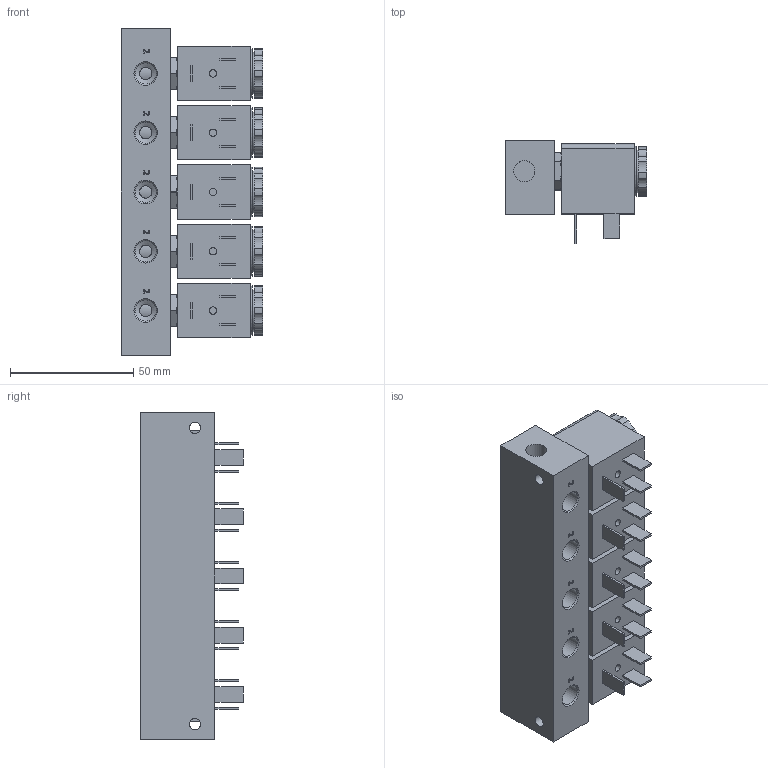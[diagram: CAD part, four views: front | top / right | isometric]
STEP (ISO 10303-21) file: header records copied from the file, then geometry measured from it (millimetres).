
FILE_DESCRIPTION (( 'STEP AP214' ), '1' );
FILE_NAME ('MSO-18-310_5-HN-412_Airtec.step', '2018-12-14T07:42:18', ( '' ), ( '' ), 'SwSTEP 2.0', 'SolidWorks 2010', '' );
FILE_SCHEMA (( 'AUTOMOTIVE_DESIGN' ));
Length unit declared in the file: millimetre
Products named in the file (3): Volumenkörper4; Volumenkörper1; MSO-18-310_5-HN-412_Airtec
Assembly tree (6 placements, depth 2):
  MSO-18-310_5-HN-412_Airtec
    Volumenkörper1  x5
    Volumenkörper4
Bounding box: 57.45 x 41.7 x 132 mm (x, y, z)
Volume: 175325.4 mm3; surface area: 54687.7 mm2
Topology: 6 solids, 16 shells, 836 faces, 1992 edges, 1302 vertices
Faces by surface type: plane 350, cylinder 261, bspline 130, cone 80, torus 15
Full cylindrical faces by diameter (mm): 1 x5, 1.9 x10, 3 x5, 4.134 x5, 4.5 x2, 5 x10, 6.647 x5, 7.4 x2, 8 x5, 8.15 x5, 8.2 x5, 8.566 x7, 9.04 x10, 10.5 x5, 13.2 x5, 16.6 x5, 17.041 x5, 20.1 x5
Entity records: 29105 total; most frequent: CARTESIAN_POINT 8953, ORIENTED_EDGE 3078, DIRECTION 2912, EDGE_CURVE 1539, AXIS2_PLACEMENT_3D 1125, VERTEX_POINT 1087, EDGE_LOOP 998, FACE_OUTER_BOUND 838
